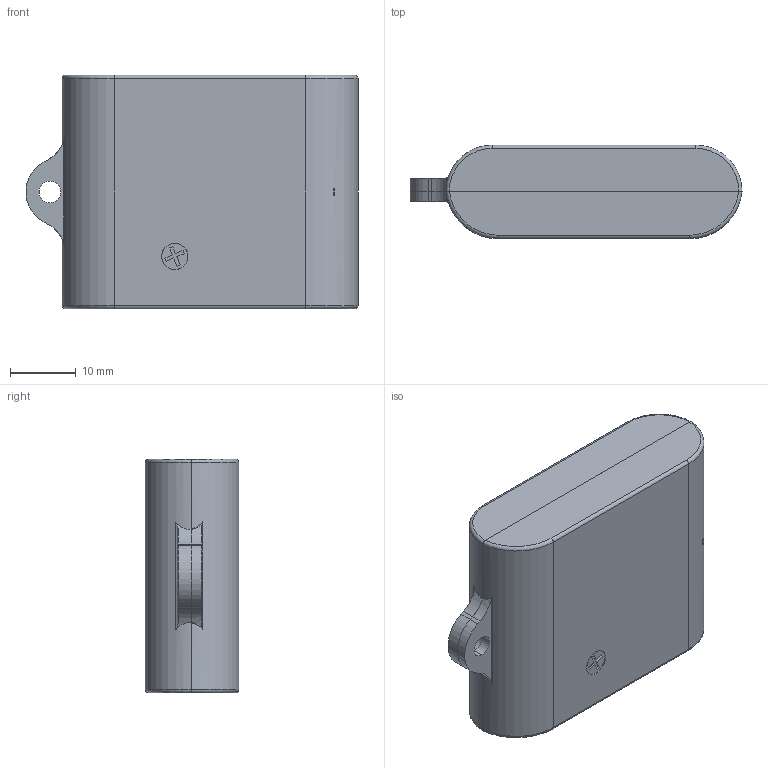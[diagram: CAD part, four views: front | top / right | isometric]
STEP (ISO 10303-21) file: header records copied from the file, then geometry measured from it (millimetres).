
FILE_DESCRIPTION (( 'STEP AP214' ), '1' );
FILE_NAME ('Conjunt PP46.STEP', '2016-10-09T09:15:27', ( 'aaa' ), ( '' ), 'SwSTEP 2.0', 'SolidWorks 2013', '' );
FILE_SCHEMA (( 'AUTOMOTIVE_DESIGN' ));
Length unit declared in the file: millimetre
Products named in the file (4): Cargol M 3x8 PP46; Tapa PP46; Cos PP46; Conjunt PP46
Assembly tree (3 placements, depth 2):
  Conjunt PP46
    Cos PP46
    Tapa PP46
    Cargol M 3x8 PP46
Bounding box: 50.48 x 14.2 x 35.5 mm (x, y, z)
Volume: 7902.5 mm3; surface area: 10617.3 mm2
Topology: 3 solids, 3 shells, 219 faces, 533 edges, 329 vertices
Faces by surface type: plane 88, cone 72, cylinder 49, torus 8, bspline 2
Entity records: 6683 total; most frequent: CARTESIAN_POINT 1290, DIRECTION 1145, ORIENTED_EDGE 1062, EDGE_CURVE 531, AXIS2_PLACEMENT_3D 412, VERTEX_POINT 329, LINE 321, VECTOR 321
